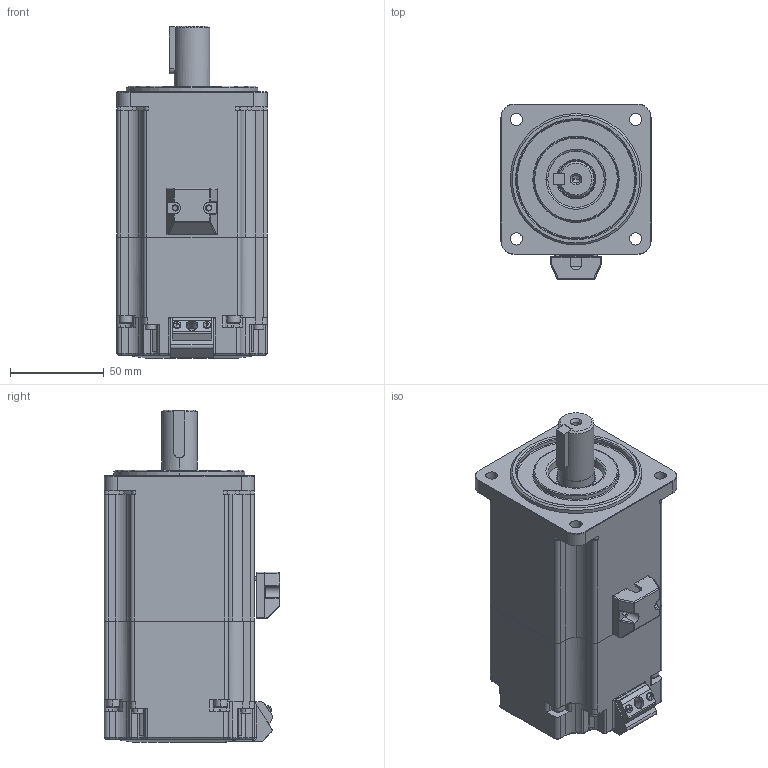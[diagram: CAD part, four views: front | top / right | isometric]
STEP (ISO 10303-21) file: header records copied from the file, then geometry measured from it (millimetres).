
FILE_DESCRIPTION (( 'STEP AP203' ), '1' );
FILE_NAME ('BMR-Z08B08030-湍惕掅.STEP', '2024-03-12T06:28:57', ( 'lvbing' ), ( 'WG' ), 'SwSTEP 2.0', 'SolidWorks 2018', '' );
FILE_SCHEMA (( 'CONFIG_CONTROL_DESIGN' ));
Length unit declared in the file: millimetre
Products named in the file (2): BMR-Z08B08030-湍惕掅
Bounding box: 80 x 93.5 x 177 mm (x, y, z)
Volume: 814510.3 mm3; surface area: 90209.8 mm2
Topology: 7 solids, 25 shells, 846 faces, 2112 edges, 1335 vertices
Faces by surface type: plane 366, cylinder 348, bspline 86, cone 46
Entity records: 28186 total; most frequent: CARTESIAN_POINT 7949, DIRECTION 4290, ORIENTED_EDGE 4148, EDGE_CURVE 2074, AXIS2_PLACEMENT_3D 1612, VERTEX_POINT 1335, LINE 1066, VECTOR 1066
